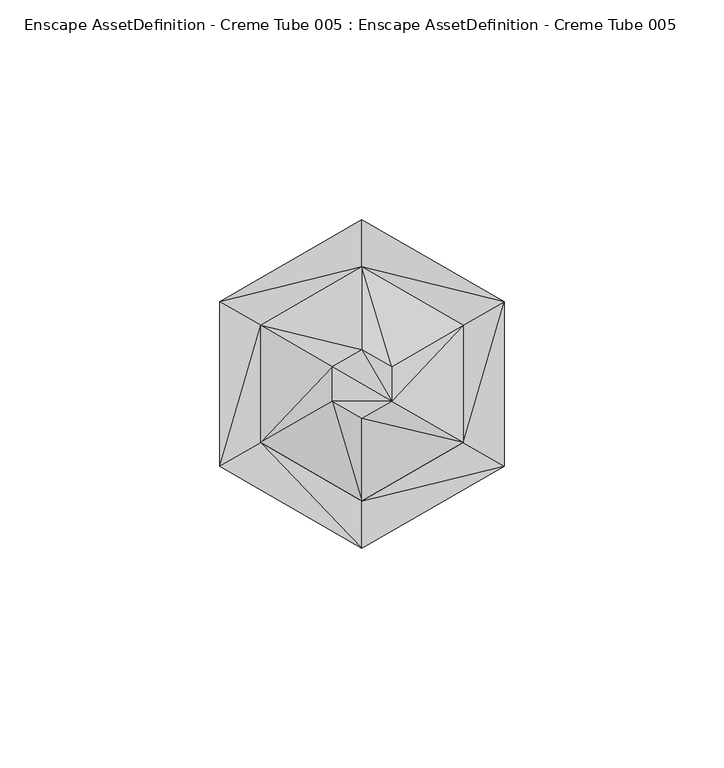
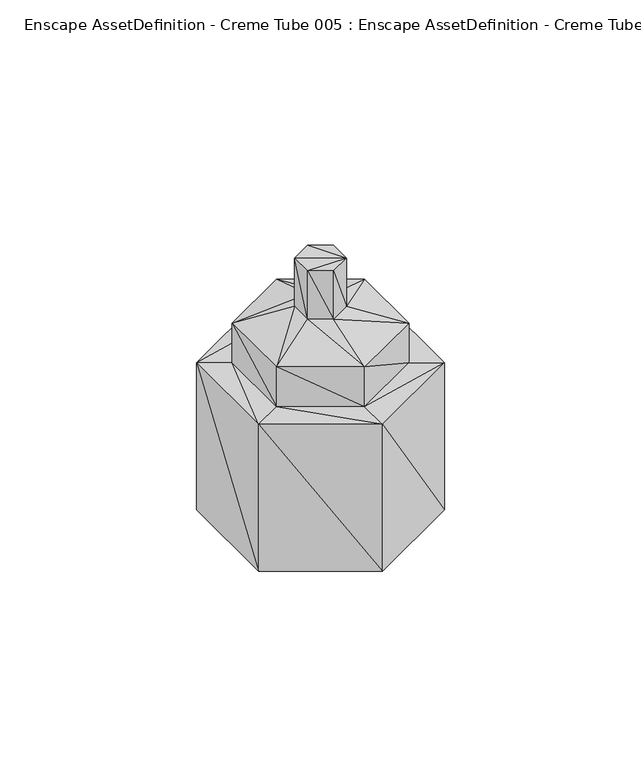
"""IFC4 building model written with IfcOpenShell, lengths in millimetres: geographic element geometry, Enscape AssetDefinition - Creme Tube 005 : Enscape AssetDefinition - Creme Tube 005."""

from ifc_helpers import new_model, si_unit, origin, place, context, project, spatial, faceted_brep, source, transform, mapped, element, save


def enscape_assetdefinition_creme_tube_005_enscape_e36b4c17(model_context):
    return source(origin(), model_context, "Body", "Brep", [
        faceted_brep([(-32.3902667, 18.7009107, 0.0), (-32.3902667, -18.7009107, 0.0), (-32.3902667, 18.7009107, 54.1557036), (0.0, -37.4009572, 0.0), (-32.3902667, -18.7009107, 54.1557036), (0.0, 37.4009572, 0.0), (32.3902667, -18.7009107, 0.0), (0.0, 37.4009572, 54.1557036), (32.3902667, 18.7009107, 0.0), (32.3902667, 18.7009107, 54.1557036), (32.3902667, -18.7009107, 54.1557036), (0.0, -37.4009572, 54.1557036), (-23.0668895, -13.3180041, 54.1557036), (0.0, -26.6351495, 54.1557036), (23.0668895, -13.3180041, 54.1557036), (0.0, -26.6351495, 68.7897727), (-23.0668895, -13.3180041, 68.7897727), (-23.0668895, 13.3180041, 54.1557036), (-23.0668895, 13.3180041, 68.7897727), (-6.7496919, -3.8966315, 74.9403164), (-6.7496919, 3.8966315, 74.9403164), (0.0, 26.6351495, 68.7897727), (0.0, 7.7932631, 74.9403164), (0.0, 26.6351495, 54.1557036), (23.0668895, 13.3180041, 68.7897727), (6.7496919, 3.8966315, 74.9403164), (0.0, 7.7932631, 92.6990882), (6.7496919, 3.8966315, 92.6990882), (6.7496919, -3.8966315, 74.9403164), (6.7496919, -3.8966315, 92.6990882), (23.0668895, 13.3180041, 54.1557036), (23.0668895, -13.3180041, 68.7897727), (0.0, -7.7932631, 74.9403164), (0.0, -7.7932631, 92.6990882), (-6.7496919, -3.8966315, 92.6990882), (-6.7496919, 3.8966315, 92.6990882)], [[[0, 1, 2]], [[1, 3, 4]], [[1, 5, 6]], [[2, 1, 4]], [[5, 1, 0]], [[1, 6, 3]], [[5, 0, 7]], [[7, 0, 2]], [[8, 5, 9]], [[9, 5, 7]], [[6, 5, 8]], [[6, 8, 10]], [[3, 6, 11]], [[11, 6, 10]], [[4, 3, 11]], [[4, 11, 12]], [[11, 10, 13]], [[12, 11, 13]], [[10, 9, 14]], [[10, 8, 9]], [[13, 10, 14]], [[13, 14, 15]], [[12, 13, 16]], [[16, 13, 15]], [[17, 12, 18]], [[17, 4, 12]], [[18, 12, 16]], [[16, 15, 19]], [[18, 16, 20]], [[20, 16, 19]], [[21, 18, 22]], [[21, 17, 18]], [[22, 18, 20]], [[2, 4, 17]], [[23, 17, 21]], [[23, 2, 17]], [[24, 21, 25]], [[24, 23, 21]], [[25, 21, 22]], [[22, 20, 26]], [[25, 22, 27]], [[27, 22, 26]], [[28, 25, 29]], [[28, 24, 25]], [[29, 25, 27]], [[30, 23, 24]], [[31, 24, 28]], [[31, 30, 24]], [[32, 28, 33]], [[32, 31, 28]], [[33, 28, 29]], [[14, 30, 31]], [[15, 31, 32]], [[15, 14, 31]], [[30, 9, 23]], [[14, 9, 30]], [[23, 9, 7]], [[7, 2, 23]], [[19, 15, 32]], [[19, 32, 34]], [[34, 32, 33]], [[29, 34, 33]], [[35, 19, 34]], [[29, 35, 34]], [[20, 19, 35]], [[26, 20, 35]], [[29, 26, 35]], [[26, 29, 27]]]),
    ])


if __name__ == "__main__":
    model = new_model("IFC4")
    model_context = context("Model", 3, world=origin())
    ifc_project = project(units=[si_unit("LENGTHUNIT", "METRE", prefix="MILLI")], contexts=[model_context])
    site = spatial("IfcSite", under=ifc_project)
    building = spatial("IfcBuilding", under=site)
    placement = place(None, origin())
    enscape_assetdefinition_creme_tube_005_enscape_shape = enscape_assetdefinition_creme_tube_005_enscape_e36b4c17(model_context)
    element("IfcGeographicElement", 1, ObjectType="Enscape AssetDefinition - Creme Tube 005 : Enscape AssetDefinition - Creme Tube 005", at=placement, inside=building, context=model_context, shape_type="MappedRepresentation", body=[
        mapped(enscape_assetdefinition_creme_tube_005_enscape_shape, transform((0.0, 0.0, 0.0), x_axis=(1.0, 0.0, 0.0), y_axis=(0.0, 1.0, 0.0), z_axis=(0.0, 0.0, 1.0))),
    ])
    save(model, "model.ifc")
